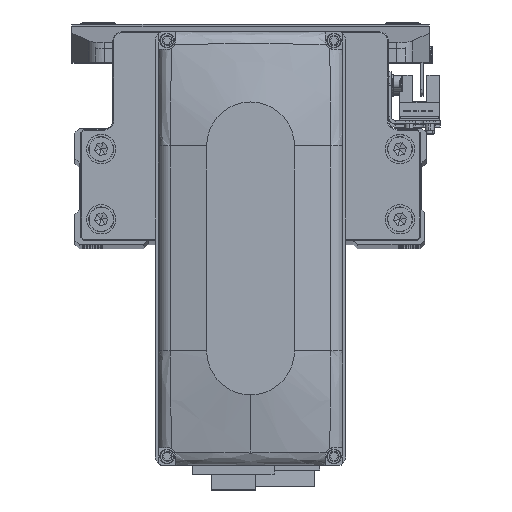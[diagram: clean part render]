
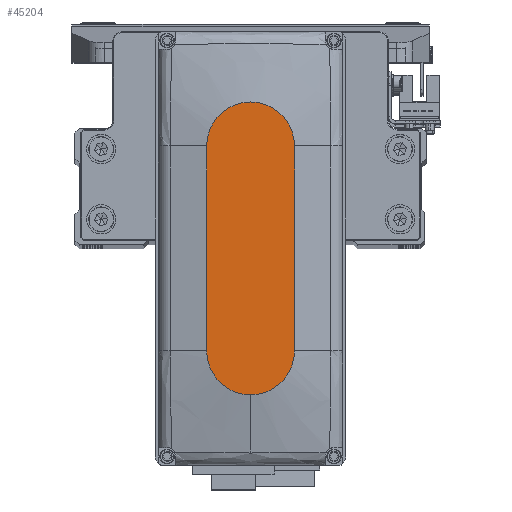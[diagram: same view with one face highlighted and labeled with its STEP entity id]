
A CAD part, top view. The second image highlights one B-rep face of the part: STEP entity #45204.
In plain terms, the highlighted planar face has unit normal (0, 0, 1).
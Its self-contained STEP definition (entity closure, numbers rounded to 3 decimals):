
#2677 = CIRCLE ( 'NONE', #29056, 15. ) ;
#2706 = VECTOR ( 'NONE', #18134, 1000. ) ;
#3747 = CARTESIAN_POINT ( 'NONE',  ( -35., 15., 35. ) ) ;
#5735 = EDGE_CURVE ( 'NONE', #41699, #17684, #7735, .T. ) ;
#6010 = CARTESIAN_POINT ( 'NONE',  ( 50., 0., 35. ) ) ;
#7400 = CARTESIAN_POINT ( 'NONE',  ( 35., 0., 35. ) ) ;
#7735 = LINE ( 'NONE', #22158, #20770 ) ;
#7754 = DIRECTION ( 'NONE',  ( 0., 0., 1. ) ) ;
#8085 = CARTESIAN_POINT ( 'NONE',  ( 35., -15., 35. ) ) ;
#9859 = AXIS2_PLACEMENT_3D ( 'NONE', #40108, #7754, #22179 ) ;
#11050 = ORIENTED_EDGE ( 'NONE', *, *, #36169, .T. ) ;
#11624 = DIRECTION ( 'NONE',  ( 0., 0., 1. ) ) ;
#13677 = EDGE_CURVE ( 'NONE', #40888, #14512, #29489, .T. ) ;
#14512 = VERTEX_POINT ( 'NONE', #31860 ) ;
#14627 = ORIENTED_EDGE ( 'NONE', *, *, #33556, .T. ) ;
#14658 = CARTESIAN_POINT ( 'NONE',  ( 35., 0., 35. ) ) ;
#15139 = AXIS2_PLACEMENT_3D ( 'NONE', #7400, #21806, #36197 ) ;
#15145 = FACE_OUTER_BOUND ( 'NONE', #21982, .T. ) ;
#16424 = AXIS2_PLACEMENT_3D ( 'NONE', #43972, #11624, #26051 ) ;
#17684 = VERTEX_POINT ( 'NONE', #8085 ) ;
#17885 = VERTEX_POINT ( 'NONE', #38506 ) ;
#18134 = DIRECTION ( 'NONE',  ( -1., 0., 0. ) ) ;
#20770 = VECTOR ( 'NONE', #36564, 1000. ) ;
#21806 = DIRECTION ( 'NONE',  ( 0., 0., 1. ) ) ;
#21982 = EDGE_LOOP ( 'NONE', ( #14627, #11050, #42856, #23591, #31162 ) ) ;
#22158 = CARTESIAN_POINT ( 'NONE',  ( -35., -15., 35. ) ) ;
#22179 = DIRECTION ( 'NONE',  ( 1., 0., 0. ) ) ;
#23591 = ORIENTED_EDGE ( 'NONE', *, *, #33082, .T. ) ;
#26051 = DIRECTION ( 'NONE',  ( 1., 0., 0. ) ) ;
#29056 = AXIS2_PLACEMENT_3D ( 'NONE', #14658, #29087, #43487 ) ;
#29087 = DIRECTION ( 'NONE',  ( 0., 0., 1. ) ) ;
#29489 = CIRCLE ( 'NONE', #15139, 15. ) ;
#29571 = PLANE ( 'NONE',  #16424 ) ;
#30230 = CIRCLE ( 'NONE', #9859, 15. ) ;
#31162 = ORIENTED_EDGE ( 'NONE', *, *, #13677, .T. ) ;
#31860 = CARTESIAN_POINT ( 'NONE',  ( 35., 15., 35. ) ) ;
#33082 = EDGE_CURVE ( 'NONE', #17684, #40888, #2677, .T. ) ;
#33556 = EDGE_CURVE ( 'NONE', #14512, #17885, #36103, .T. ) ;
#36103 = LINE ( 'NONE', #3747, #2706 ) ;
#36169 = EDGE_CURVE ( 'NONE', #17885, #41699, #30230, .T. ) ;
#36197 = DIRECTION ( 'NONE',  ( 1., 0., 0. ) ) ;
#36564 = DIRECTION ( 'NONE',  ( 1., 0., 0. ) ) ;
#38506 = CARTESIAN_POINT ( 'NONE',  ( -35., 15., 35. ) ) ;
#40108 = CARTESIAN_POINT ( 'NONE',  ( -35., 0., 35. ) ) ;
#40888 = VERTEX_POINT ( 'NONE', #6010 ) ;
#41699 = VERTEX_POINT ( 'NONE', #42758 ) ;
#42758 = CARTESIAN_POINT ( 'NONE',  ( -35., -15., 35. ) ) ;
#42856 = ORIENTED_EDGE ( 'NONE', *, *, #5735, .T. ) ;
#43487 = DIRECTION ( 'NONE',  ( 1., 0., 0. ) ) ;
#43972 = CARTESIAN_POINT ( 'NONE',  ( 0., 0., 35. ) ) ;
#45204 = ADVANCED_FACE ( 'NONE', ( #15145 ), #29571, .T. ) ;
